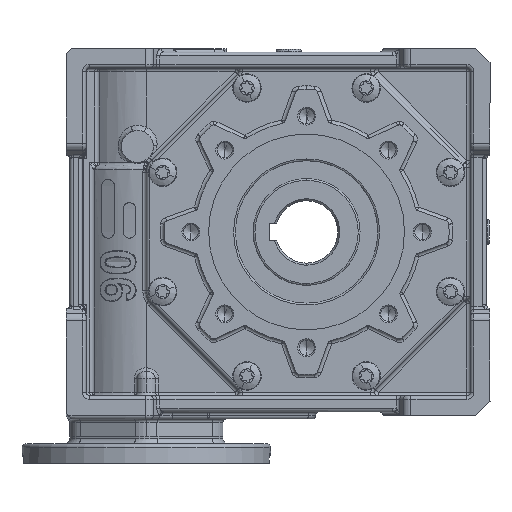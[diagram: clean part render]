
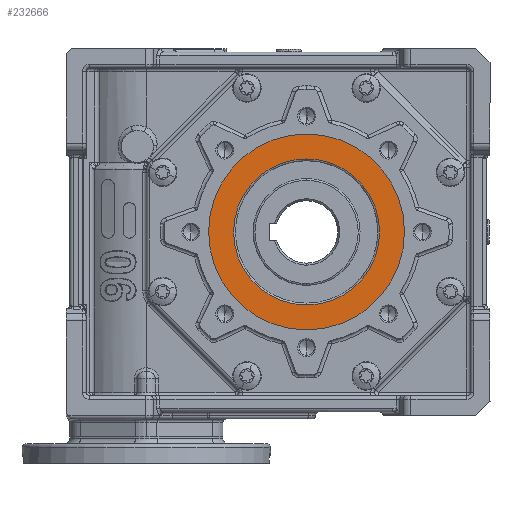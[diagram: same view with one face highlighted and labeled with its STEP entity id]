
A CAD part, left-side view. The second image highlights one B-rep face of the part: STEP entity #232666.
In plain terms, the highlighted planar face has unit normal (-1, 0, 0).
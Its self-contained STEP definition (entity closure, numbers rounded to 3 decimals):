
#11414 = CARTESIAN_POINT ( 'NONE',  ( -70., 0., 41. ) ) ;
#11416 = DIRECTION ( 'NONE',  ( 0., 0., 1. ) ) ;
#11417 = DIRECTION ( 'NONE',  ( -1., 0., 0. ) ) ;
#11419 = CARTESIAN_POINT ( 'NONE',  ( -70., 0., 0. ) ) ;
#11420 = AXIS2_PLACEMENT_3D ( 'NONE', #11419, #11417, #11416 ) ;
#11421 = CIRCLE ( 'NONE', #11420, 41. ) ;
#11424 = CARTESIAN_POINT ( 'NONE',  ( -70., 0., -41. ) ) ;
#99680 = VERTEX_POINT ( 'NONE', #11424 ) ;
#99688 = EDGE_CURVE ( 'NONE', #99680, #99692, #11421, .T. ) ;
#99692 = VERTEX_POINT ( 'NONE', #11414 ) ;
#220558 = CARTESIAN_POINT ( 'NONE',  ( -70., 0., 55. ) ) ;
#220797 = CIRCLE ( 'NONE', #221012, 55. ) ;
#221003 = CARTESIAN_POINT ( 'NONE',  ( -70., 0., -55. ) ) ;
#221005 = DIRECTION ( 'NONE',  ( 0., 0., -1. ) ) ;
#221008 = DIRECTION ( 'NONE',  ( 1., 0., 0. ) ) ;
#221010 = CARTESIAN_POINT ( 'NONE',  ( -70., 0., 0. ) ) ;
#221012 = AXIS2_PLACEMENT_3D ( 'NONE', #221010, #221008, #221005 ) ;
#223846 = DIRECTION ( 'NONE',  ( 0., 0., 1. ) ) ;
#223848 = DIRECTION ( 'NONE',  ( -1., 0., 0. ) ) ;
#223849 = CARTESIAN_POINT ( 'NONE',  ( -70., 0., 0. ) ) ;
#223852 = AXIS2_PLACEMENT_3D ( 'NONE', #223849, #223848, #223846 ) ;
#223854 = CIRCLE ( 'NONE', #223852, 41. ) ;
#223861 = DIRECTION ( 'NONE',  ( 0., 0., -1. ) ) ;
#223864 = DIRECTION ( 'NONE',  ( 1., 0., 0. ) ) ;
#223866 = CARTESIAN_POINT ( 'NONE',  ( -70., 0., 0. ) ) ;
#223868 = AXIS2_PLACEMENT_3D ( 'NONE', #223866, #223864, #223861 ) ;
#223869 = CIRCLE ( 'NONE', #223868, 55. ) ;
#224001 = DIRECTION ( 'NONE',  ( 0., 0., -1. ) ) ;
#224002 = DIRECTION ( 'NONE',  ( -1., 0., 0. ) ) ;
#224003 = CARTESIAN_POINT ( 'NONE',  ( -70., 0., 0. ) ) ;
#224005 = AXIS2_PLACEMENT_3D ( 'NONE', #224003, #224002, #224001 ) ;
#224007 = PLANE ( 'NONE',  #224005 ) ;
#224012 = FACE_BOUND ( 'NONE', #232617, .T. ) ;
#224014 = FACE_OUTER_BOUND ( 'NONE', #232668, .T. ) ;
#231602 = VERTEX_POINT ( 'NONE', #220558 ) ;
#231662 = EDGE_CURVE ( 'NONE', #231664, #231602, #220797, .T. ) ;
#231664 = VERTEX_POINT ( 'NONE', #221003 ) ;
#232610 = ORIENTED_EDGE ( 'NONE', *, *, #231662, .F. ) ;
#232612 = ORIENTED_EDGE ( 'NONE', *, *, #232614, .F. ) ;
#232614 = EDGE_CURVE ( 'NONE', #231602, #231664, #223869, .T. ) ;
#232617 = EDGE_LOOP ( 'NONE', ( #232619, #232622 ) ) ;
#232619 = ORIENTED_EDGE ( 'NONE', *, *, #232621, .F. ) ;
#232621 = EDGE_CURVE ( 'NONE', #99692, #99680, #223854, .T. ) ;
#232622 = ORIENTED_EDGE ( 'NONE', *, *, #99688, .F. ) ;
#232666 = ADVANCED_FACE ( 'NONE', ( #224014, #224012 ), #224007, .T. ) ;
#232668 = EDGE_LOOP ( 'NONE', ( #232610, #232612 ) ) ;
